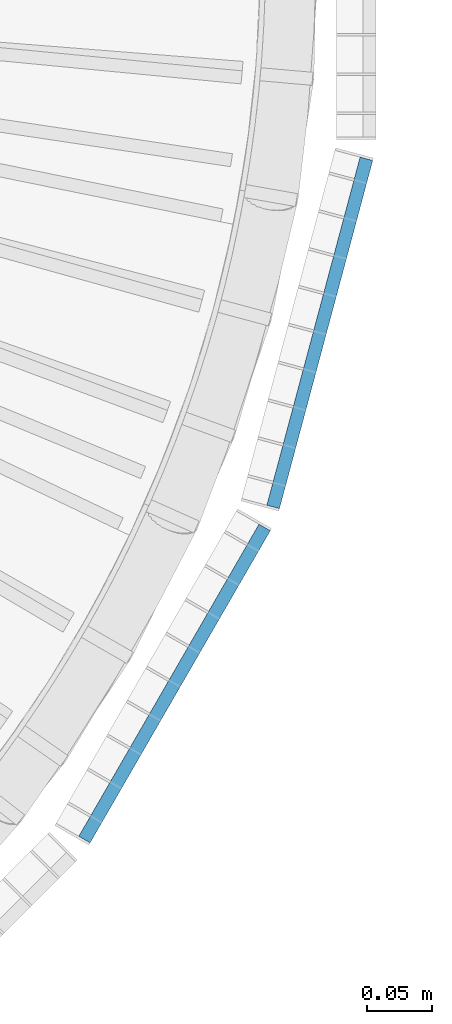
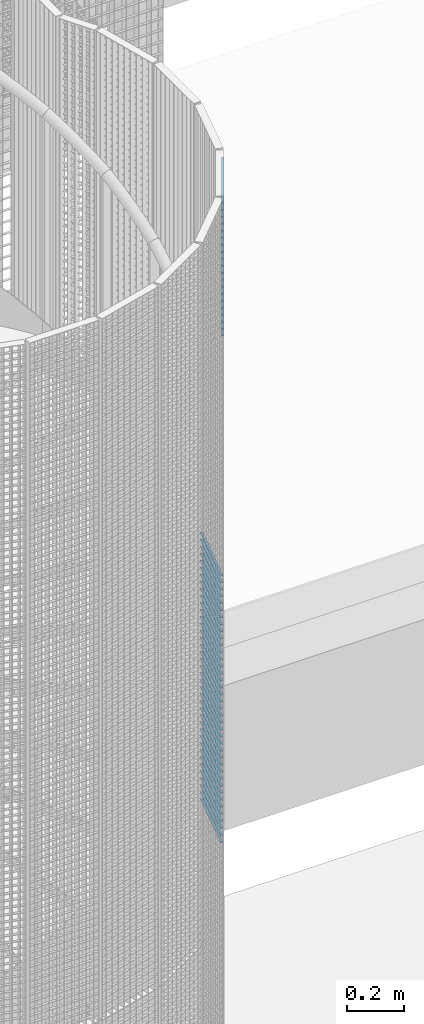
# One storey, part 231 of 1183: 59 beams, 2 elements without a shape of their own.
"""IFC2X3 building model written with IfcOpenShell, lengths in millimetres."""

from ifc_helpers import new_model, si_unit, frame, origin_with_axes, origin_2d_with_axis, place, context, subcontext, project, spatial, rectangle, extrude, material, type_object, element, aggregate, save


model = new_model("IFC2X3")

# Units and contexts
model_context = context("Model", 3, precision=1e-05, world=origin_with_axes())
body_context = subcontext(model_context, "Body", "Model", "MODEL_VIEW")
ifc_project = project(units=[si_unit("LENGTHUNIT", "METRE", prefix="MILLI"), si_unit("AREAUNIT", "SQUARE_METRE"), si_unit("VOLUMEUNIT", "CUBIC_METRE"), si_unit("MASSUNIT", "GRAM", prefix="KILO"), si_unit("TIMEUNIT", "SECOND"), si_unit("PLANEANGLEUNIT", "RADIAN"), si_unit("SOLIDANGLEUNIT", "STERADIAN"), si_unit("THERMODYNAMICTEMPERATUREUNIT", "DEGREE_CELSIUS"), si_unit("LUMINOUSINTENSITYUNIT", "LUMEN")], contexts=[model_context])

# Site, building, storey
site_placement = place(None, origin_with_axes())
site = spatial("IfcSite", under=ifc_project, at=site_placement, Name="Undefined", CompositionType="ELEMENT")
building_placement = place(site_placement, origin_with_axes())
building = spatial("IfcBuilding", under=site, at=building_placement, Name="Undefined", CompositionType="ELEMENT")
storey_placement = place(building_placement, origin_with_axes())
storey = spatial("IfcBuildingStorey", under=building, at=storey_placement, Name="Undefined", CompositionType="ELEMENT", Elevation=0.0)

# Assembly, beams
assembly_1_placement = place(storey_placement, origin_with_axes())
assembly_1 = element("IfcElementAssembly", 1, at=assembly_1_placement, inside=storey, Name="BORDURE", AssemblyPlace="NOTDEFINED", PredefinedType="NOTDEFINED")
ifc_material = material(Name="STEEL/S235JR")
beam_type = type_object("IfcBeamType", Name="PL2*10", PredefinedType="NOTDEFINED")
beam_1_placement = place(assembly_1_placement, frame((1039.82309522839, -421.483733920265, 16170.0), z_axis=(0.965925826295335, -0.258819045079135, 0.0), x_axis=(0.258819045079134, 0.965925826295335, 0.0)))
beam_1 = element("IfcBeam", 2, at=beam_1_placement, type_object=beam_type, material=ifc_material, Name="ENTRETOISE", context=body_context, shape_type="SweptSolid", body=[
    extrude(rectangle(XDim=2.0, YDim=10.0, at=origin_2d_with_axis()), frame((275.999999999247, 9.09494701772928e-13, 1.53210777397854e-14), z_axis=(-1.0, 0.0, 0.0), x_axis=(0.0, -1.0, 0.0)), (0.0, 0.0, 1.0), 276.0),
])
beam_2_placement = place(assembly_1_placement, frame((1039.82309522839, -421.483733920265, 16140.0), z_axis=(0.965925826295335, -0.258819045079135, 0.0), x_axis=(0.258819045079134, 0.965925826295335, 0.0)))
beam_2 = element("IfcBeam", 3, at=beam_2_placement, type_object=beam_type, material=ifc_material, Name="ENTRETOISE", context=body_context, shape_type="SweptSolid", body=[
    extrude(rectangle(XDim=2.0, YDim=10.0, at=origin_2d_with_axis()), frame((275.999999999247, 9.09494701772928e-13, 1.53210777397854e-14), z_axis=(-1.0, 0.0, 0.0), x_axis=(0.0, -1.0, 0.0)), (0.0, 0.0, 1.0), 276.0),
])
beam_3_placement = place(assembly_1_placement, frame((1039.82309522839, -421.483733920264, 15720.0), z_axis=(0.965925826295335, -0.258819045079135, 0.0), x_axis=(0.258819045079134, 0.965925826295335, 0.0)))
beam_3 = element("IfcBeam", 4, at=beam_3_placement, type_object=beam_type, material=ifc_material, Name="ENTRETOISE", context=body_context, shape_type="SweptSolid", body=[
    extrude(rectangle(XDim=2.0, YDim=10.0, at=origin_2d_with_axis()), frame((275.999999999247, 9.09494701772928e-13, 1.53210777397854e-14), z_axis=(-1.0, 0.0, 0.0), x_axis=(0.0, -1.0, 0.0)), (0.0, 0.0, 1.0), 276.0),
])
beam_4_placement = place(assembly_1_placement, frame((1039.82309522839, -421.483733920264, 15690.0), z_axis=(0.965925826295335, -0.258819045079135, 0.0), x_axis=(0.258819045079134, 0.965925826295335, 0.0)))
beam_4 = element("IfcBeam", 5, at=beam_4_placement, type_object=beam_type, material=ifc_material, Name="ENTRETOISE", context=body_context, shape_type="SweptSolid", body=[
    extrude(rectangle(XDim=2.0, YDim=10.0, at=origin_2d_with_axis()), frame((275.999999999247, 9.09494701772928e-13, 1.53210777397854e-14), z_axis=(-1.0, 0.0, 0.0), x_axis=(0.0, -1.0, 0.0)), (0.0, 0.0, 1.0), 276.0),
])
beam_5_placement = place(assembly_1_placement, frame((1039.82309522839, -421.483733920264, 15750.0), z_axis=(0.965925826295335, -0.258819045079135, 0.0), x_axis=(0.258819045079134, 0.965925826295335, 0.0)))
beam_5 = element("IfcBeam", 6, at=beam_5_placement, type_object=beam_type, material=ifc_material, Name="ENTRETOISE", context=body_context, shape_type="SweptSolid", body=[
    extrude(rectangle(XDim=2.0, YDim=10.0, at=origin_2d_with_axis()), frame((275.999999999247, 9.09494701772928e-13, 1.53210777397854e-14), z_axis=(-1.0, 0.0, 0.0), x_axis=(0.0, -1.0, 0.0)), (0.0, 0.0, 1.0), 276.0),
])
beam_6_placement = place(assembly_1_placement, frame((1039.82309522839, -421.483733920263, 15660.0), z_axis=(0.965925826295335, -0.258819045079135, 0.0), x_axis=(0.258819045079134, 0.965925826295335, 0.0)))
beam_6 = element("IfcBeam", 7, at=beam_6_placement, type_object=beam_type, material=ifc_material, Name="ENTRETOISE", context=body_context, shape_type="SweptSolid", body=[
    extrude(rectangle(XDim=2.0, YDim=10.0, at=origin_2d_with_axis()), frame((275.999999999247, 9.09494701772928e-13, 1.53210777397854e-14), z_axis=(-1.0, 0.0, 0.0), x_axis=(0.0, -1.0, 0.0)), (0.0, 0.0, 1.0), 276.0),
])
beam_7_placement = place(assembly_1_placement, frame((1039.82309522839, -421.483733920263, 15630.0), z_axis=(0.965925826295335, -0.258819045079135, 0.0), x_axis=(0.258819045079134, 0.965925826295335, 0.0)))
beam_7 = element("IfcBeam", 8, at=beam_7_placement, type_object=beam_type, material=ifc_material, Name="ENTRETOISE", context=body_context, shape_type="SweptSolid", body=[
    extrude(rectangle(XDim=2.0, YDim=10.0, at=origin_2d_with_axis()), frame((275.999999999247, 9.09494701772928e-13, 1.53210777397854e-14), z_axis=(-1.0, 0.0, 0.0), x_axis=(0.0, -1.0, 0.0)), (0.0, 0.0, 1.0), 276.0),
])
beam_8_placement = place(assembly_1_placement, frame((1039.82309522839, -421.483733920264, 15780.0), z_axis=(0.965925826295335, -0.258819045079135, 0.0), x_axis=(0.258819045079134, 0.965925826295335, 0.0)))
beam_8 = element("IfcBeam", 9, at=beam_8_placement, type_object=beam_type, material=ifc_material, Name="ENTRETOISE", context=body_context, shape_type="SweptSolid", body=[
    extrude(rectangle(XDim=2.0, YDim=10.0, at=origin_2d_with_axis()), frame((275.999999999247, 9.09494701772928e-13, 1.53210777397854e-14), z_axis=(-1.0, 0.0, 0.0), x_axis=(0.0, -1.0, 0.0)), (0.0, 0.0, 1.0), 276.0),
])
beam_9_placement = place(assembly_1_placement, frame((1039.82309522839, -421.483733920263, 15600.0), z_axis=(0.965925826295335, -0.258819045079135, 0.0), x_axis=(0.258819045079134, 0.965925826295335, 0.0)))
beam_9 = element("IfcBeam", 10, at=beam_9_placement, type_object=beam_type, material=ifc_material, Name="ENTRETOISE", context=body_context, shape_type="SweptSolid", body=[
    extrude(rectangle(XDim=2.0, YDim=10.0, at=origin_2d_with_axis()), frame((275.999999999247, 9.09494701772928e-13, 1.53210777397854e-14), z_axis=(-1.0, 0.0, 0.0), x_axis=(0.0, -1.0, 0.0)), (0.0, 0.0, 1.0), 276.0),
])
beam_10_placement = place(assembly_1_placement, frame((1039.82309522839, -421.483733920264, 15810.0), z_axis=(0.965925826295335, -0.258819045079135, 0.0), x_axis=(0.258819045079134, 0.965925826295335, 0.0)))
beam_10 = element("IfcBeam", 11, at=beam_10_placement, type_object=beam_type, material=ifc_material, Name="ENTRETOISE", context=body_context, shape_type="SweptSolid", body=[
    extrude(rectangle(XDim=2.0, YDim=10.0, at=origin_2d_with_axis()), frame((275.999999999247, 9.09494701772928e-13, 1.53210777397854e-14), z_axis=(-1.0, 0.0, 0.0), x_axis=(0.0, -1.0, 0.0)), (0.0, 0.0, 1.0), 276.0),
])
beam_11_placement = place(assembly_1_placement, frame((1039.82309522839, -421.483733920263, 15570.0), z_axis=(0.965925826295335, -0.258819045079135, 0.0), x_axis=(0.258819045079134, 0.965925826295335, 0.0)))
beam_11 = element("IfcBeam", 12, at=beam_11_placement, type_object=beam_type, material=ifc_material, Name="ENTRETOISE", context=body_context, shape_type="SweptSolid", body=[
    extrude(rectangle(XDim=2.0, YDim=10.0, at=origin_2d_with_axis()), frame((275.999999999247, 9.09494701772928e-13, 1.53210777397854e-14), z_axis=(-1.0, 0.0, 0.0), x_axis=(0.0, -1.0, 0.0)), (0.0, 0.0, 1.0), 276.0),
])
beam_12_placement = place(assembly_1_placement, frame((1039.82309522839, -421.483733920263, 15540.0), z_axis=(0.965925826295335, -0.258819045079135, 0.0), x_axis=(0.258819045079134, 0.965925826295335, 0.0)))
beam_12 = element("IfcBeam", 13, at=beam_12_placement, type_object=beam_type, material=ifc_material, Name="ENTRETOISE", context=body_context, shape_type="SweptSolid", body=[
    extrude(rectangle(XDim=2.0, YDim=10.0, at=origin_2d_with_axis()), frame((275.999999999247, 9.09494701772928e-13, 1.53210777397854e-14), z_axis=(-1.0, 0.0, 0.0), x_axis=(0.0, -1.0, 0.0)), (0.0, 0.0, 1.0), 276.0),
])
beam_13_placement = place(assembly_1_placement, frame((1039.82309522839, -421.483733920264, 15840.0), z_axis=(0.965925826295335, -0.258819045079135, 0.0), x_axis=(0.258819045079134, 0.965925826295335, 0.0)))
beam_13 = element("IfcBeam", 14, at=beam_13_placement, type_object=beam_type, material=ifc_material, Name="ENTRETOISE", context=body_context, shape_type="SweptSolid", body=[
    extrude(rectangle(XDim=2.0, YDim=10.0, at=origin_2d_with_axis()), frame((275.999999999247, 9.09494701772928e-13, 1.53210777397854e-14), z_axis=(-1.0, 0.0, 0.0), x_axis=(0.0, -1.0, 0.0)), (0.0, 0.0, 1.0), 276.0),
])
beam_14_placement = place(assembly_1_placement, frame((1039.82309522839, -421.483733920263, 15510.0), z_axis=(0.965925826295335, -0.258819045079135, 0.0), x_axis=(0.258819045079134, 0.965925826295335, 0.0)))
beam_14 = element("IfcBeam", 15, at=beam_14_placement, type_object=beam_type, material=ifc_material, Name="ENTRETOISE", context=body_context, shape_type="SweptSolid", body=[
    extrude(rectangle(XDim=2.0, YDim=10.0, at=origin_2d_with_axis()), frame((275.999999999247, 9.09494701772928e-13, 1.53210777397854e-14), z_axis=(-1.0, 0.0, 0.0), x_axis=(0.0, -1.0, 0.0)), (0.0, 0.0, 1.0), 276.0),
])
beam_15_placement = place(assembly_1_placement, frame((1039.82309522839, -421.483733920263, 15480.0), z_axis=(0.965925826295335, -0.258819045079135, 0.0), x_axis=(0.258819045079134, 0.965925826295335, 0.0)))
beam_15 = element("IfcBeam", 16, at=beam_15_placement, type_object=beam_type, material=ifc_material, Name="ENTRETOISE", context=body_context, shape_type="SweptSolid", body=[
    extrude(rectangle(XDim=2.0, YDim=10.0, at=origin_2d_with_axis()), frame((275.999999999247, 9.09494701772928e-13, 1.53210777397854e-14), z_axis=(-1.0, 0.0, 0.0), x_axis=(0.0, -1.0, 0.0)), (0.0, 0.0, 1.0), 276.0),
])
beam_16_placement = place(assembly_1_placement, frame((1039.82309522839, -421.483733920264, 15870.0), z_axis=(0.965925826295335, -0.258819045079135, 0.0), x_axis=(0.258819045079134, 0.965925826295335, 0.0)))
beam_16 = element("IfcBeam", 17, at=beam_16_placement, type_object=beam_type, material=ifc_material, Name="ENTRETOISE", context=body_context, shape_type="SweptSolid", body=[
    extrude(rectangle(XDim=2.0, YDim=10.0, at=origin_2d_with_axis()), frame((275.999999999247, 9.09494701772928e-13, 1.53210777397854e-14), z_axis=(-1.0, 0.0, 0.0), x_axis=(0.0, -1.0, 0.0)), (0.0, 0.0, 1.0), 276.0),
])
beam_17_placement = place(assembly_1_placement, frame((1039.82309522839, -421.483733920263, 15450.0), z_axis=(0.965925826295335, -0.258819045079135, 0.0), x_axis=(0.258819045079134, 0.965925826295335, 0.0)))
beam_17 = element("IfcBeam", 18, at=beam_17_placement, type_object=beam_type, material=ifc_material, Name="ENTRETOISE", context=body_context, shape_type="SweptSolid", body=[
    extrude(rectangle(XDim=2.0, YDim=10.0, at=origin_2d_with_axis()), frame((275.999999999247, 9.09494701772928e-13, 1.53210777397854e-14), z_axis=(-1.0, 0.0, 0.0), x_axis=(0.0, -1.0, 0.0)), (0.0, 0.0, 1.0), 276.0),
])
beam_18_placement = place(assembly_1_placement, frame((1039.82309522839, -421.483733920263, 15420.0), z_axis=(0.965925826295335, -0.258819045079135, 0.0), x_axis=(0.258819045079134, 0.965925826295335, 0.0)))
beam_18 = element("IfcBeam", 19, at=beam_18_placement, type_object=beam_type, material=ifc_material, Name="ENTRETOISE", context=body_context, shape_type="SweptSolid", body=[
    extrude(rectangle(XDim=2.0, YDim=10.0, at=origin_2d_with_axis()), frame((275.999999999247, 9.09494701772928e-13, 1.53210777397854e-14), z_axis=(-1.0, 0.0, 0.0), x_axis=(0.0, -1.0, 0.0)), (0.0, 0.0, 1.0), 276.0),
])
beam_19_placement = place(assembly_1_placement, frame((1039.82309522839, -421.483733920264, 15900.0), z_axis=(0.965925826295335, -0.258819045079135, 0.0), x_axis=(0.258819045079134, 0.965925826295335, 0.0)))
beam_19 = element("IfcBeam", 20, at=beam_19_placement, type_object=beam_type, material=ifc_material, Name="ENTRETOISE", context=body_context, shape_type="SweptSolid", body=[
    extrude(rectangle(XDim=2.0, YDim=10.0, at=origin_2d_with_axis()), frame((275.999999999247, 9.09494701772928e-13, 1.53210777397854e-14), z_axis=(-1.0, 0.0, 0.0), x_axis=(0.0, -1.0, 0.0)), (0.0, 0.0, 1.0), 276.0),
])
beam_20_placement = place(assembly_1_placement, frame((1039.82309522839, -421.483733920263, 15390.0), z_axis=(0.965925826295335, -0.258819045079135, 0.0), x_axis=(0.258819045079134, 0.965925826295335, 0.0)))
beam_20 = element("IfcBeam", 21, at=beam_20_placement, type_object=beam_type, material=ifc_material, Name="ENTRETOISE", context=body_context, shape_type="SweptSolid", body=[
    extrude(rectangle(XDim=2.0, YDim=10.0, at=origin_2d_with_axis()), frame((275.999999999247, 9.09494701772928e-13, 1.53210777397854e-14), z_axis=(-1.0, 0.0, 0.0), x_axis=(0.0, -1.0, 0.0)), (0.0, 0.0, 1.0), 276.0),
])
beam_21_placement = place(assembly_1_placement, frame((1039.82309522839, -421.483733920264, 15930.0), z_axis=(0.965925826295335, -0.258819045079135, 0.0), x_axis=(0.258819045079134, 0.965925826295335, 0.0)))
beam_21 = element("IfcBeam", 22, at=beam_21_placement, type_object=beam_type, material=ifc_material, Name="ENTRETOISE", context=body_context, shape_type="SweptSolid", body=[
    extrude(rectangle(XDim=2.0, YDim=10.0, at=origin_2d_with_axis()), frame((275.999999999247, 9.09494701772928e-13, 1.53210777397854e-14), z_axis=(-1.0, 0.0, 0.0), x_axis=(0.0, -1.0, 0.0)), (0.0, 0.0, 1.0), 276.0),
])
beam_22_placement = place(assembly_1_placement, frame((1039.82309522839, -421.483733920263, 15360.0), z_axis=(0.965925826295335, -0.258819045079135, 0.0), x_axis=(0.258819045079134, 0.965925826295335, 0.0)))
beam_22 = element("IfcBeam", 23, at=beam_22_placement, type_object=beam_type, material=ifc_material, Name="ENTRETOISE", context=body_context, shape_type="SweptSolid", body=[
    extrude(rectangle(XDim=2.0, YDim=10.0, at=origin_2d_with_axis()), frame((275.999999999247, 9.09494701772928e-13, 1.53210777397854e-14), z_axis=(-1.0, 0.0, 0.0), x_axis=(0.0, -1.0, 0.0)), (0.0, 0.0, 1.0), 276.0),
])
beam_23_placement = place(assembly_1_placement, frame((1039.82309522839, -421.483733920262, 15330.0), z_axis=(0.965925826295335, -0.258819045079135, 0.0), x_axis=(0.258819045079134, 0.965925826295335, 0.0)))
beam_23 = element("IfcBeam", 24, at=beam_23_placement, type_object=beam_type, material=ifc_material, Name="ENTRETOISE", context=body_context, shape_type="SweptSolid", body=[
    extrude(rectangle(XDim=2.0, YDim=10.0, at=origin_2d_with_axis()), frame((275.999999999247, 9.09494701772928e-13, 1.53210777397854e-14), z_axis=(-1.0, 0.0, 0.0), x_axis=(0.0, -1.0, 0.0)), (0.0, 0.0, 1.0), 276.0),
])
beam_24_placement = place(assembly_1_placement, frame((1039.82309522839, -421.483733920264, 15960.0), z_axis=(0.965925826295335, -0.258819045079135, 0.0), x_axis=(0.258819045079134, 0.965925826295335, 0.0)))
beam_24 = element("IfcBeam", 25, at=beam_24_placement, type_object=beam_type, material=ifc_material, Name="ENTRETOISE", context=body_context, shape_type="SweptSolid", body=[
    extrude(rectangle(XDim=2.0, YDim=10.0, at=origin_2d_with_axis()), frame((275.999999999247, 9.09494701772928e-13, 1.53210777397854e-14), z_axis=(-1.0, 0.0, 0.0), x_axis=(0.0, -1.0, 0.0)), (0.0, 0.0, 1.0), 276.0),
])
beam_25_placement = place(assembly_1_placement, frame((1039.82309522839, -421.483733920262, 15300.0), z_axis=(0.965925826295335, -0.258819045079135, 0.0), x_axis=(0.258819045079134, 0.965925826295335, 0.0)))
beam_25 = element("IfcBeam", 26, at=beam_25_placement, type_object=beam_type, material=ifc_material, Name="ENTRETOISE", context=body_context, shape_type="SweptSolid", body=[
    extrude(rectangle(XDim=2.0, YDim=10.0, at=origin_2d_with_axis()), frame((275.999999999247, 9.09494701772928e-13, 1.53210777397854e-14), z_axis=(-1.0, 0.0, 0.0), x_axis=(0.0, -1.0, 0.0)), (0.0, 0.0, 1.0), 276.0),
])
beam_26_placement = place(assembly_1_placement, frame((1039.82309522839, -421.483733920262, 15270.0), z_axis=(0.965925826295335, -0.258819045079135, 0.0), x_axis=(0.258819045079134, 0.965925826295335, 0.0)))
beam_26 = element("IfcBeam", 27, at=beam_26_placement, type_object=beam_type, material=ifc_material, Name="ENTRETOISE", context=body_context, shape_type="SweptSolid", body=[
    extrude(rectangle(XDim=2.0, YDim=10.0, at=origin_2d_with_axis()), frame((275.999999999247, 9.09494701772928e-13, 1.53210777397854e-14), z_axis=(-1.0, 0.0, 0.0), x_axis=(0.0, -1.0, 0.0)), (0.0, 0.0, 1.0), 276.0),
])
beam_27_placement = place(assembly_1_placement, frame((1039.82309522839, -421.483733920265, 15990.0), z_axis=(0.965925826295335, -0.258819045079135, 0.0), x_axis=(0.258819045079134, 0.965925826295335, 0.0)))
beam_27 = element("IfcBeam", 28, at=beam_27_placement, type_object=beam_type, material=ifc_material, Name="ENTRETOISE", context=body_context, shape_type="SweptSolid", body=[
    extrude(rectangle(XDim=2.0, YDim=10.0, at=origin_2d_with_axis()), frame((275.999999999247, 9.09494701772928e-13, 1.53210777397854e-14), z_axis=(-1.0, 0.0, 0.0), x_axis=(0.0, -1.0, 0.0)), (0.0, 0.0, 1.0), 276.0),
])
beam_28_placement = place(assembly_1_placement, frame((1039.82309522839, -421.483733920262, 15240.0), z_axis=(0.965925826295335, -0.258819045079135, 0.0), x_axis=(0.258819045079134, 0.965925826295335, 0.0)))
beam_28 = element("IfcBeam", 29, at=beam_28_placement, type_object=beam_type, material=ifc_material, Name="ENTRETOISE", context=body_context, shape_type="SweptSolid", body=[
    extrude(rectangle(XDim=2.0, YDim=10.0, at=origin_2d_with_axis()), frame((275.999999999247, 9.09494701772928e-13, 1.53210777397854e-14), z_axis=(-1.0, 0.0, 0.0), x_axis=(0.0, -1.0, 0.0)), (0.0, 0.0, 1.0), 276.0),
])
beam_29_placement = place(assembly_1_placement, frame((1039.82309522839, -421.483733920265, 16020.0), z_axis=(0.965925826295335, -0.258819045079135, 0.0), x_axis=(0.258819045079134, 0.965925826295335, 0.0)))
beam_29 = element("IfcBeam", 30, at=beam_29_placement, type_object=beam_type, material=ifc_material, Name="ENTRETOISE", context=body_context, shape_type="SweptSolid", body=[
    extrude(rectangle(XDim=2.0, YDim=10.0, at=origin_2d_with_axis()), frame((275.999999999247, 9.09494701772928e-13, 1.53210777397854e-14), z_axis=(-1.0, 0.0, 0.0), x_axis=(0.0, -1.0, 0.0)), (0.0, 0.0, 1.0), 276.0),
])
beam_30_placement = place(assembly_1_placement, frame((1039.82309522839, -421.483733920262, 15210.0), z_axis=(0.965925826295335, -0.258819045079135, 0.0), x_axis=(0.258819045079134, 0.965925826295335, 0.0)))
beam_30 = element("IfcBeam", 31, at=beam_30_placement, type_object=beam_type, material=ifc_material, Name="ENTRETOISE", context=body_context, shape_type="SweptSolid", body=[
    extrude(rectangle(XDim=2.0, YDim=10.0, at=origin_2d_with_axis()), frame((275.999999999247, 9.09494701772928e-13, 1.53210777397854e-14), z_axis=(-1.0, 0.0, 0.0), x_axis=(0.0, -1.0, 0.0)), (0.0, 0.0, 1.0), 276.0),
])
beam_31_placement = place(assembly_1_placement, frame((1039.82309522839, -421.483733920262, 15180.0), z_axis=(0.965925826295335, -0.258819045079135, 0.0), x_axis=(0.258819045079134, 0.965925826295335, 0.0)))
beam_31 = element("IfcBeam", 32, at=beam_31_placement, type_object=beam_type, material=ifc_material, Name="ENTRETOISE", context=body_context, shape_type="SweptSolid", body=[
    extrude(rectangle(XDim=2.0, YDim=10.0, at=origin_2d_with_axis()), frame((275.999999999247, 9.09494701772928e-13, 1.53210777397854e-14), z_axis=(-1.0, 0.0, 0.0), x_axis=(0.0, -1.0, 0.0)), (0.0, 0.0, 1.0), 276.0),
])
beam_32_placement = place(assembly_1_placement, frame((1039.82309522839, -421.483733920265, 16050.0), z_axis=(0.965925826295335, -0.258819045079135, 0.0), x_axis=(0.258819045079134, 0.965925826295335, 0.0)))
beam_32 = element("IfcBeam", 33, at=beam_32_placement, type_object=beam_type, material=ifc_material, Name="ENTRETOISE", context=body_context, shape_type="SweptSolid", body=[
    extrude(rectangle(XDim=2.0, YDim=10.0, at=origin_2d_with_axis()), frame((275.999999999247, 9.09494701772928e-13, 1.53210777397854e-14), z_axis=(-1.0, 0.0, 0.0), x_axis=(0.0, -1.0, 0.0)), (0.0, 0.0, 1.0), 276.0),
])
beam_33_placement = place(assembly_1_placement, frame((1039.82309522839, -421.483733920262, 15150.0), z_axis=(0.965925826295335, -0.258819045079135, 0.0), x_axis=(0.258819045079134, 0.965925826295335, 0.0)))
beam_33 = element("IfcBeam", 34, at=beam_33_placement, type_object=beam_type, material=ifc_material, Name="ENTRETOISE", context=body_context, shape_type="SweptSolid", body=[
    extrude(rectangle(XDim=2.0, YDim=10.0, at=origin_2d_with_axis()), frame((275.999999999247, 9.09494701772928e-13, 1.53210777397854e-14), z_axis=(-1.0, 0.0, 0.0), x_axis=(0.0, -1.0, 0.0)), (0.0, 0.0, 1.0), 276.0),
])
beam_34_placement = place(assembly_1_placement, frame((1039.82309522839, -421.483733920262, 15120.0), z_axis=(0.965925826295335, -0.258819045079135, 0.0), x_axis=(0.258819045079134, 0.965925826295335, 0.0)))
beam_34 = element("IfcBeam", 35, at=beam_34_placement, type_object=beam_type, material=ifc_material, Name="ENTRETOISE", context=body_context, shape_type="SweptSolid", body=[
    extrude(rectangle(XDim=2.0, YDim=10.0, at=origin_2d_with_axis()), frame((275.999999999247, 9.09494701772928e-13, 1.53210777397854e-14), z_axis=(-1.0, 0.0, 0.0), x_axis=(0.0, -1.0, 0.0)), (0.0, 0.0, 1.0), 276.0),
])
beam_35_placement = place(assembly_1_placement, frame((1039.82309522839, -421.483733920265, 16080.0), z_axis=(0.965925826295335, -0.258819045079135, 0.0), x_axis=(0.258819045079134, 0.965925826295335, 0.0)))
beam_35 = element("IfcBeam", 36, at=beam_35_placement, type_object=beam_type, material=ifc_material, Name="ENTRETOISE", context=body_context, shape_type="SweptSolid", body=[
    extrude(rectangle(XDim=2.0, YDim=10.0, at=origin_2d_with_axis()), frame((275.999999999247, 9.09494701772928e-13, 1.53210777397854e-14), z_axis=(-1.0, 0.0, 0.0), x_axis=(0.0, -1.0, 0.0)), (0.0, 0.0, 1.0), 276.0),
])
beam_36_placement = place(assembly_1_placement, frame((1039.82309522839, -421.483733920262, 15090.0), z_axis=(0.965925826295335, -0.258819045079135, 0.0), x_axis=(0.258819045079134, 0.965925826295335, 0.0)))
beam_36 = element("IfcBeam", 37, at=beam_36_placement, type_object=beam_type, material=ifc_material, Name="ENTRETOISE", context=body_context, shape_type="SweptSolid", body=[
    extrude(rectangle(XDim=2.0, YDim=10.0, at=origin_2d_with_axis()), frame((275.999999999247, 9.09494701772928e-13, 1.53210777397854e-14), z_axis=(-1.0, 0.0, 0.0), x_axis=(0.0, -1.0, 0.0)), (0.0, 0.0, 1.0), 276.0),
])
beam_37_placement = place(assembly_1_placement, frame((1039.82309522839, -421.483733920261, 15060.0), z_axis=(0.965925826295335, -0.258819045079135, 0.0), x_axis=(0.258819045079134, 0.965925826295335, 0.0)))
beam_37 = element("IfcBeam", 38, at=beam_37_placement, type_object=beam_type, material=ifc_material, Name="ENTRETOISE", context=body_context, shape_type="SweptSolid", body=[
    extrude(rectangle(XDim=2.0, YDim=10.0, at=origin_2d_with_axis()), frame((275.999999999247, 9.09494701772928e-13, 1.53210777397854e-14), z_axis=(-1.0, 0.0, 0.0), x_axis=(0.0, -1.0, 0.0)), (0.0, 0.0, 1.0), 276.0),
])
beam_38_placement = place(assembly_1_placement, frame((1039.82309522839, -421.483733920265, 16110.0), z_axis=(0.965925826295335, -0.258819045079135, 0.0), x_axis=(0.258819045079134, 0.965925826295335, 0.0)))
beam_38 = element("IfcBeam", 39, at=beam_38_placement, type_object=beam_type, material=ifc_material, Name="ENTRETOISE", context=body_context, shape_type="SweptSolid", body=[
    extrude(rectangle(XDim=2.0, YDim=10.0, at=origin_2d_with_axis()), frame((275.999999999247, 9.09494701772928e-13, 1.53210777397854e-14), z_axis=(-1.0, 0.0, 0.0), x_axis=(0.0, -1.0, 0.0)), (0.0, 0.0, 1.0), 276.0),
])
beam_39_placement = place(assembly_1_placement, frame((1039.82309522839, -421.48373392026, 15030.0), z_axis=(0.965925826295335, -0.258819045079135, 0.0), x_axis=(0.258819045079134, 0.965925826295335, 0.0)))
beam_39 = element("IfcBeam", 40, at=beam_39_placement, type_object=beam_type, material=ifc_material, Name="ENTRETOISE", context=body_context, shape_type="SweptSolid", body=[
    extrude(rectangle(XDim=2.0, YDim=10.0, at=origin_2d_with_axis()), frame((275.999999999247, 9.09494701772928e-13, 1.53210777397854e-14), z_axis=(-1.0, 0.0, 0.0), x_axis=(0.0, -1.0, 0.0)), (0.0, 0.0, 1.0), 276.0),
])
aggregate(assembly_1, [beam_1, beam_2, beam_3, beam_4, beam_5, beam_6, beam_7, beam_8, beam_9, beam_10, beam_11, beam_12, beam_13, beam_14, beam_15, beam_16, beam_17, beam_18, beam_19, beam_20, beam_21, beam_22, beam_23, beam_24, beam_25, beam_26, beam_27, beam_28, beam_29, beam_30, beam_31, beam_32, beam_33, beam_34, beam_35, beam_36, beam_37, beam_38, beam_39])

assembly_2_placement = place(storey_placement, origin_with_axes())
assembly_2 = element("IfcElementAssembly", 41, at=assembly_2_placement, inside=storey, Name="BORDURE", AssemblyPlace="NOTDEFINED", PredefinedType="NOTDEFINED")
beam_40_placement = place(assembly_2_placement, frame((895.303964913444, -676.248044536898, 17970.0), z_axis=(0.866025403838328, -0.49999999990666, 0.0), x_axis=(0.49999999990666, 0.866025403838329, 0.0)))
beam_40 = element("IfcBeam", 42, at=beam_40_placement, type_object=beam_type, material=ifc_material, Name="ENTRETOISE", context=body_context, shape_type="SweptSolid", body=[
    extrude(rectangle(XDim=2.0, YDim=10.0, at=origin_2d_with_axis()), frame((275.999999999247, 9.09494701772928e-13, 1.53210777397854e-14), z_axis=(-1.0, 0.0, 0.0), x_axis=(0.0, -1.0, 0.0)), (0.0, 0.0, 1.0), 276.0),
])
beam_41_placement = place(assembly_2_placement, frame((895.303964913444, -676.248044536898, 17940.0), z_axis=(0.866025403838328, -0.49999999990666, 0.0), x_axis=(0.49999999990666, 0.866025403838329, 0.0)))
beam_41 = element("IfcBeam", 43, at=beam_41_placement, type_object=beam_type, material=ifc_material, Name="ENTRETOISE", context=body_context, shape_type="SweptSolid", body=[
    extrude(rectangle(XDim=2.0, YDim=10.0, at=origin_2d_with_axis()), frame((275.999999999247, 9.09494701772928e-13, 1.53210777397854e-14), z_axis=(-1.0, 0.0, 0.0), x_axis=(0.0, -1.0, 0.0)), (0.0, 0.0, 1.0), 276.0),
])
beam_42_placement = place(assembly_2_placement, frame((895.303964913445, -676.248044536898, 17910.0), z_axis=(0.866025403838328, -0.49999999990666, 0.0), x_axis=(0.49999999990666, 0.866025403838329, 0.0)))
beam_42 = element("IfcBeam", 44, at=beam_42_placement, type_object=beam_type, material=ifc_material, Name="ENTRETOISE", context=body_context, shape_type="SweptSolid", body=[
    extrude(rectangle(XDim=2.0, YDim=10.0, at=origin_2d_with_axis()), frame((275.999999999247, 9.09494701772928e-13, 1.53210777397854e-14), z_axis=(-1.0, 0.0, 0.0), x_axis=(0.0, -1.0, 0.0)), (0.0, 0.0, 1.0), 276.0),
])
beam_43_placement = place(assembly_2_placement, frame((895.303964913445, -676.248044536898, 17880.0), z_axis=(0.866025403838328, -0.49999999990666, 0.0), x_axis=(0.49999999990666, 0.866025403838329, 0.0)))
beam_43 = element("IfcBeam", 45, at=beam_43_placement, type_object=beam_type, material=ifc_material, Name="ENTRETOISE", context=body_context, shape_type="SweptSolid", body=[
    extrude(rectangle(XDim=2.0, YDim=10.0, at=origin_2d_with_axis()), frame((275.999999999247, 9.09494701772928e-13, 1.53210777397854e-14), z_axis=(-1.0, 0.0, 0.0), x_axis=(0.0, -1.0, 0.0)), (0.0, 0.0, 1.0), 276.0),
])
beam_44_placement = place(assembly_2_placement, frame((895.303964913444, -676.248044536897, 17850.0), z_axis=(0.866025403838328, -0.49999999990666, 0.0), x_axis=(0.49999999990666, 0.866025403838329, 0.0)))
beam_44 = element("IfcBeam", 46, at=beam_44_placement, type_object=beam_type, material=ifc_material, Name="ENTRETOISE", context=body_context, shape_type="SweptSolid", body=[
    extrude(rectangle(XDim=2.0, YDim=10.0, at=origin_2d_with_axis()), frame((275.999999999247, 9.09494701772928e-13, 1.53210777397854e-14), z_axis=(-1.0, 0.0, 0.0), x_axis=(0.0, -1.0, 0.0)), (0.0, 0.0, 1.0), 276.0),
])
beam_45_placement = place(assembly_2_placement, frame((895.303964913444, -676.248044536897, 17820.0), z_axis=(0.866025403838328, -0.49999999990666, 0.0), x_axis=(0.49999999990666, 0.866025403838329, 0.0)))
beam_45 = element("IfcBeam", 47, at=beam_45_placement, type_object=beam_type, material=ifc_material, Name="ENTRETOISE", context=body_context, shape_type="SweptSolid", body=[
    extrude(rectangle(XDim=2.0, YDim=10.0, at=origin_2d_with_axis()), frame((275.999999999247, 9.09494701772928e-13, 1.53210777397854e-14), z_axis=(-1.0, 0.0, 0.0), x_axis=(0.0, -1.0, 0.0)), (0.0, 0.0, 1.0), 276.0),
])
beam_46_placement = place(assembly_2_placement, frame((895.303964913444, -676.248044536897, 17790.0), z_axis=(0.866025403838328, -0.49999999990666, 0.0), x_axis=(0.49999999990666, 0.866025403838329, 0.0)))
beam_46 = element("IfcBeam", 48, at=beam_46_placement, type_object=beam_type, material=ifc_material, Name="ENTRETOISE", context=body_context, shape_type="SweptSolid", body=[
    extrude(rectangle(XDim=2.0, YDim=10.0, at=origin_2d_with_axis()), frame((275.999999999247, 9.09494701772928e-13, 1.53210777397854e-14), z_axis=(-1.0, 0.0, 0.0), x_axis=(0.0, -1.0, 0.0)), (0.0, 0.0, 1.0), 276.0),
])
beam_47_placement = place(assembly_2_placement, frame((895.303964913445, -676.248044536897, 17760.0), z_axis=(0.866025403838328, -0.49999999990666, 0.0), x_axis=(0.49999999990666, 0.866025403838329, 0.0)))
beam_47 = element("IfcBeam", 49, at=beam_47_placement, type_object=beam_type, material=ifc_material, Name="ENTRETOISE", context=body_context, shape_type="SweptSolid", body=[
    extrude(rectangle(XDim=2.0, YDim=10.0, at=origin_2d_with_axis()), frame((275.999999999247, 9.09494701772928e-13, 1.53210777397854e-14), z_axis=(-1.0, 0.0, 0.0), x_axis=(0.0, -1.0, 0.0)), (0.0, 0.0, 1.0), 276.0),
])
beam_48_placement = place(assembly_2_placement, frame((895.303964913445, -676.248044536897, 17730.0), z_axis=(0.866025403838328, -0.49999999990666, 0.0), x_axis=(0.49999999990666, 0.866025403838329, 0.0)))
beam_48 = element("IfcBeam", 50, at=beam_48_placement, type_object=beam_type, material=ifc_material, Name="ENTRETOISE", context=body_context, shape_type="SweptSolid", body=[
    extrude(rectangle(XDim=2.0, YDim=10.0, at=origin_2d_with_axis()), frame((275.999999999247, 9.09494701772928e-13, 1.53210777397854e-14), z_axis=(-1.0, 0.0, 0.0), x_axis=(0.0, -1.0, 0.0)), (0.0, 0.0, 1.0), 276.0),
])
beam_49_placement = place(assembly_2_placement, frame((895.303964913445, -676.248044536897, 17700.0), z_axis=(0.866025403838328, -0.49999999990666, 0.0), x_axis=(0.49999999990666, 0.866025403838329, 0.0)))
beam_49 = element("IfcBeam", 51, at=beam_49_placement, type_object=beam_type, material=ifc_material, Name="ENTRETOISE", context=body_context, shape_type="SweptSolid", body=[
    extrude(rectangle(XDim=2.0, YDim=10.0, at=origin_2d_with_axis()), frame((275.999999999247, 9.09494701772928e-13, 1.53210777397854e-14), z_axis=(-1.0, 0.0, 0.0), x_axis=(0.0, -1.0, 0.0)), (0.0, 0.0, 1.0), 276.0),
])
beam_50_placement = place(assembly_2_placement, frame((895.303964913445, -676.248044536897, 17670.0), z_axis=(0.866025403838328, -0.49999999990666, 0.0), x_axis=(0.49999999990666, 0.866025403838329, 0.0)))
beam_50 = element("IfcBeam", 52, at=beam_50_placement, type_object=beam_type, material=ifc_material, Name="ENTRETOISE", context=body_context, shape_type="SweptSolid", body=[
    extrude(rectangle(XDim=2.0, YDim=10.0, at=origin_2d_with_axis()), frame((275.999999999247, 9.09494701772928e-13, 1.53210777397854e-14), z_axis=(-1.0, 0.0, 0.0), x_axis=(0.0, -1.0, 0.0)), (0.0, 0.0, 1.0), 276.0),
])
beam_51_placement = place(assembly_2_placement, frame((895.303964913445, -676.248044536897, 17640.0), z_axis=(0.866025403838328, -0.49999999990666, 0.0), x_axis=(0.49999999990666, 0.866025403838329, 0.0)))
beam_51 = element("IfcBeam", 53, at=beam_51_placement, type_object=beam_type, material=ifc_material, Name="ENTRETOISE", context=body_context, shape_type="SweptSolid", body=[
    extrude(rectangle(XDim=2.0, YDim=10.0, at=origin_2d_with_axis()), frame((275.999999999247, 9.09494701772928e-13, 1.53210777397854e-14), z_axis=(-1.0, 0.0, 0.0), x_axis=(0.0, -1.0, 0.0)), (0.0, 0.0, 1.0), 276.0),
])
beam_52_placement = place(assembly_2_placement, frame((895.303964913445, -676.248044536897, 17610.0), z_axis=(0.866025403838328, -0.49999999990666, 0.0), x_axis=(0.49999999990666, 0.866025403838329, 0.0)))
beam_52 = element("IfcBeam", 54, at=beam_52_placement, type_object=beam_type, material=ifc_material, Name="ENTRETOISE", context=body_context, shape_type="SweptSolid", body=[
    extrude(rectangle(XDim=2.0, YDim=10.0, at=origin_2d_with_axis()), frame((275.999999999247, 9.09494701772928e-13, 1.53210777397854e-14), z_axis=(-1.0, 0.0, 0.0), x_axis=(0.0, -1.0, 0.0)), (0.0, 0.0, 1.0), 276.0),
])
beam_53_placement = place(assembly_2_placement, frame((895.303964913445, -676.248044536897, 17580.0), z_axis=(0.866025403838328, -0.49999999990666, 0.0), x_axis=(0.49999999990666, 0.866025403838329, 0.0)))
beam_53 = element("IfcBeam", 55, at=beam_53_placement, type_object=beam_type, material=ifc_material, Name="ENTRETOISE", context=body_context, shape_type="SweptSolid", body=[
    extrude(rectangle(XDim=2.0, YDim=10.0, at=origin_2d_with_axis()), frame((275.999999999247, 9.09494701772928e-13, 1.53210777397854e-14), z_axis=(-1.0, 0.0, 0.0), x_axis=(0.0, -1.0, 0.0)), (0.0, 0.0, 1.0), 276.0),
])
beam_54_placement = place(assembly_2_placement, frame((895.303964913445, -676.248044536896, 17550.0), z_axis=(0.866025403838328, -0.49999999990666, 0.0), x_axis=(0.49999999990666, 0.866025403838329, 0.0)))
beam_54 = element("IfcBeam", 56, at=beam_54_placement, type_object=beam_type, material=ifc_material, Name="ENTRETOISE", context=body_context, shape_type="SweptSolid", body=[
    extrude(rectangle(XDim=2.0, YDim=10.0, at=origin_2d_with_axis()), frame((275.999999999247, 9.09494701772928e-13, 1.53210777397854e-14), z_axis=(-1.0, 0.0, 0.0), x_axis=(0.0, -1.0, 0.0)), (0.0, 0.0, 1.0), 276.0),
])
beam_55_placement = place(assembly_2_placement, frame((895.303964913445, -676.248044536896, 17520.0), z_axis=(0.866025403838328, -0.49999999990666, 0.0), x_axis=(0.49999999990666, 0.866025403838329, 0.0)))
beam_55 = element("IfcBeam", 57, at=beam_55_placement, type_object=beam_type, material=ifc_material, Name="ENTRETOISE", context=body_context, shape_type="SweptSolid", body=[
    extrude(rectangle(XDim=2.0, YDim=10.0, at=origin_2d_with_axis()), frame((275.999999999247, 9.09494701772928e-13, 1.53210777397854e-14), z_axis=(-1.0, 0.0, 0.0), x_axis=(0.0, -1.0, 0.0)), (0.0, 0.0, 1.0), 276.0),
])
beam_56_placement = place(assembly_2_placement, frame((895.303964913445, -676.248044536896, 17490.0), z_axis=(0.866025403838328, -0.49999999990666, 0.0), x_axis=(0.49999999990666, 0.866025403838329, 0.0)))
beam_56 = element("IfcBeam", 58, at=beam_56_placement, type_object=beam_type, material=ifc_material, Name="ENTRETOISE", context=body_context, shape_type="SweptSolid", body=[
    extrude(rectangle(XDim=2.0, YDim=10.0, at=origin_2d_with_axis()), frame((275.999999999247, 9.09494701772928e-13, 1.53210777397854e-14), z_axis=(-1.0, 0.0, 0.0), x_axis=(0.0, -1.0, 0.0)), (0.0, 0.0, 1.0), 276.0),
])
beam_57_placement = place(assembly_2_placement, frame((895.303964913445, -676.248044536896, 17460.0), z_axis=(0.866025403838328, -0.49999999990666, 0.0), x_axis=(0.49999999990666, 0.866025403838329, 0.0)))
beam_57 = element("IfcBeam", 59, at=beam_57_placement, type_object=beam_type, material=ifc_material, Name="ENTRETOISE", context=body_context, shape_type="SweptSolid", body=[
    extrude(rectangle(XDim=2.0, YDim=10.0, at=origin_2d_with_axis()), frame((275.999999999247, 9.09494701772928e-13, 1.53210777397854e-14), z_axis=(-1.0, 0.0, 0.0), x_axis=(0.0, -1.0, 0.0)), (0.0, 0.0, 1.0), 276.0),
])
beam_58_placement = place(assembly_2_placement, frame((895.303964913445, -676.248044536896, 17430.0), z_axis=(0.866025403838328, -0.49999999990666, 0.0), x_axis=(0.49999999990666, 0.866025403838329, 0.0)))
beam_58 = element("IfcBeam", 60, at=beam_58_placement, type_object=beam_type, material=ifc_material, Name="ENTRETOISE", context=body_context, shape_type="SweptSolid", body=[
    extrude(rectangle(XDim=2.0, YDim=10.0, at=origin_2d_with_axis()), frame((275.999999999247, 9.09494701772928e-13, 1.53210777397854e-14), z_axis=(-1.0, 0.0, 0.0), x_axis=(0.0, -1.0, 0.0)), (0.0, 0.0, 1.0), 276.0),
])
beam_59_placement = place(assembly_2_placement, frame((895.303964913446, -676.248044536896, 17400.0), z_axis=(0.866025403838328, -0.49999999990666, 0.0), x_axis=(0.49999999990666, 0.866025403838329, 0.0)))
beam_59 = element("IfcBeam", 61, at=beam_59_placement, type_object=beam_type, material=ifc_material, Name="ENTRETOISE", context=body_context, shape_type="SweptSolid", body=[
    extrude(rectangle(XDim=2.0, YDim=10.0, at=origin_2d_with_axis()), frame((275.999999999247, 9.09494701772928e-13, 1.53210777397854e-14), z_axis=(-1.0, 0.0, 0.0), x_axis=(0.0, -1.0, 0.0)), (0.0, 0.0, 1.0), 276.0),
])
aggregate(assembly_2, [beam_40, beam_41, beam_42, beam_43, beam_44, beam_45, beam_46, beam_47, beam_48, beam_49, beam_50, beam_51, beam_52, beam_53, beam_54, beam_55, beam_56, beam_57, beam_58, beam_59])

save(model, "model.ifc")
